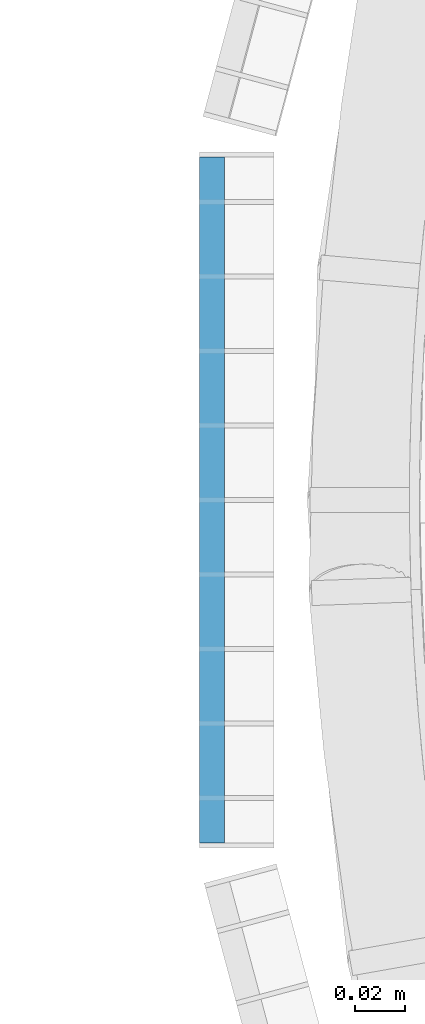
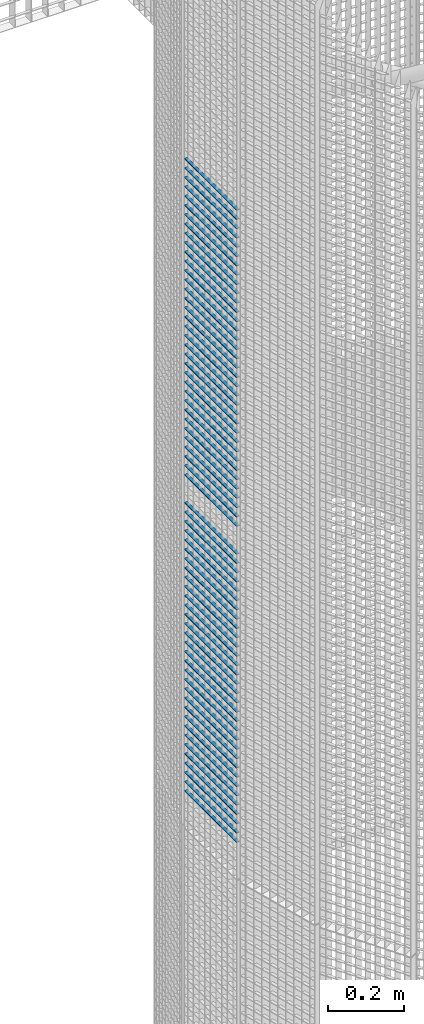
# One storey, part 205 of 1148: 67 beams, 1 element without a shape of its own.
"""IFC2X3 building model written with IfcOpenShell, lengths in millimetres."""

from ifc_helpers import new_model, si_unit, frame, origin_with_axes, origin_2d_with_axis, place, context, subcontext, project, spatial, rectangle, extrude, material, type_object, element, aggregate, save


model = new_model("IFC2X3")

# Units and contexts
model_context = context("Model", 3, precision=1e-05, world=origin_with_axes())
body_context = subcontext(model_context, "Body", "Model", "MODEL_VIEW")
ifc_project = project(units=[si_unit("LENGTHUNIT", "METRE", prefix="MILLI"), si_unit("AREAUNIT", "SQUARE_METRE"), si_unit("VOLUMEUNIT", "CUBIC_METRE"), si_unit("MASSUNIT", "GRAM", prefix="KILO"), si_unit("TIMEUNIT", "SECOND"), si_unit("PLANEANGLEUNIT", "RADIAN"), si_unit("SOLIDANGLEUNIT", "STERADIAN"), si_unit("THERMODYNAMICTEMPERATUREUNIT", "DEGREE_CELSIUS"), si_unit("LUMINOUSINTENSITYUNIT", "LUMEN")], contexts=[model_context])

# Site, building, storey
site_placement = place(None, origin_with_axes())
site = spatial("IfcSite", under=ifc_project, at=site_placement, Name="Undefined", CompositionType="ELEMENT")
building_placement = place(site_placement, origin_with_axes())
building = spatial("IfcBuilding", under=site, at=building_placement, Name="Undefined", CompositionType="ELEMENT")
storey_placement = place(building_placement, origin_with_axes())
storey = spatial("IfcBuildingStorey", under=building, at=storey_placement, Name="Undefined", CompositionType="ELEMENT", Elevation=0.0)

# Assembly, beams
assembly_placement = place(storey_placement, origin_with_axes())
assembly = element("IfcElementAssembly", 1, at=assembly_placement, inside=storey, Name="BORDURE", AssemblyPlace="NOTDEFINED", PredefinedType="NOTDEFINED")
ifc_material = material(Name="STEEL/S235JR")
beam_type = type_object("IfcBeamType", Name="PL2*10", PredefinedType="NOTDEFINED")
beam_1_placement = place(assembly_placement, frame((-1113.47999999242, 137.996003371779, 5160.0), z_axis=(-1.0, 0.0, 0.0), x_axis=(0.0, -1.0, 0.0)))
beam_1 = element("IfcBeam", 2, at=beam_1_placement, type_object=beam_type, material=ifc_material, Name="ENTRETOISE", context=body_context, shape_type="SweptSolid", body=[
    extrude(rectangle(XDim=2.0, YDim=10.0, at=origin_2d_with_axis()), frame((275.999999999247, 9.09494701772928e-13, 1.53210777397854e-14), z_axis=(-1.0, 0.0, 0.0), x_axis=(0.0, -1.0, 0.0)), (0.0, 0.0, 1.0), 276.0),
])
beam_2_placement = place(assembly_placement, frame((-1113.47999999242, 137.996003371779, 5130.0), z_axis=(-1.0, 0.0, 0.0), x_axis=(0.0, -1.0, 0.0)))
beam_2 = element("IfcBeam", 3, at=beam_2_placement, type_object=beam_type, material=ifc_material, Name="ENTRETOISE", context=body_context, shape_type="SweptSolid", body=[
    extrude(rectangle(XDim=2.0, YDim=10.0, at=origin_2d_with_axis()), frame((275.999999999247, 9.09494701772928e-13, 1.53210777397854e-14), z_axis=(-1.0, 0.0, 0.0), x_axis=(0.0, -1.0, 0.0)), (0.0, 0.0, 1.0), 276.0),
])
beam_3_placement = place(assembly_placement, frame((-1113.47999999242, 137.996003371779, 5100.0), z_axis=(-1.0, 0.0, 0.0), x_axis=(0.0, -1.0, 0.0)))
beam_3 = element("IfcBeam", 4, at=beam_3_placement, type_object=beam_type, material=ifc_material, Name="ENTRETOISE", context=body_context, shape_type="SweptSolid", body=[
    extrude(rectangle(XDim=2.0, YDim=10.0, at=origin_2d_with_axis()), frame((275.999999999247, 9.09494701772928e-13, 1.53210777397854e-14), z_axis=(-1.0, 0.0, 0.0), x_axis=(0.0, -1.0, 0.0)), (0.0, 0.0, 1.0), 276.0),
])
beam_4_placement = place(assembly_placement, frame((-1113.47999999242, 137.996003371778, 5070.0), z_axis=(-1.0, 0.0, 0.0), x_axis=(0.0, -1.0, 0.0)))
beam_4 = element("IfcBeam", 5, at=beam_4_placement, type_object=beam_type, material=ifc_material, Name="ENTRETOISE", context=body_context, shape_type="SweptSolid", body=[
    extrude(rectangle(XDim=2.0, YDim=10.0, at=origin_2d_with_axis()), frame((275.999999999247, 9.09494701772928e-13, 1.53210777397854e-14), z_axis=(-1.0, 0.0, 0.0), x_axis=(0.0, -1.0, 0.0)), (0.0, 0.0, 1.0), 276.0),
])
beam_5_placement = place(assembly_placement, frame((-1113.47999999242, 137.996003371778, 5040.0), z_axis=(-1.0, 0.0, 0.0), x_axis=(0.0, -1.0, 0.0)))
beam_5 = element("IfcBeam", 6, at=beam_5_placement, type_object=beam_type, material=ifc_material, Name="ENTRETOISE", context=body_context, shape_type="SweptSolid", body=[
    extrude(rectangle(XDim=2.0, YDim=10.0, at=origin_2d_with_axis()), frame((275.999999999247, 9.09494701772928e-13, 1.53210777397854e-14), z_axis=(-1.0, 0.0, 0.0), x_axis=(0.0, -1.0, 0.0)), (0.0, 0.0, 1.0), 276.0),
])
beam_6_placement = place(assembly_placement, frame((-1113.47999999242, 137.996003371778, 5010.0), z_axis=(-1.0, 0.0, 0.0), x_axis=(0.0, -1.0, 0.0)))
beam_6 = element("IfcBeam", 7, at=beam_6_placement, type_object=beam_type, material=ifc_material, Name="ENTRETOISE", context=body_context, shape_type="SweptSolid", body=[
    extrude(rectangle(XDim=2.0, YDim=10.0, at=origin_2d_with_axis()), frame((275.999999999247, 9.09494701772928e-13, 1.53210777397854e-14), z_axis=(-1.0, 0.0, 0.0), x_axis=(0.0, -1.0, 0.0)), (0.0, 0.0, 1.0), 276.0),
])
beam_7_placement = place(assembly_placement, frame((-1113.47999999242, 137.996003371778, 4980.0), z_axis=(-1.0, 0.0, 0.0), x_axis=(0.0, -1.0, 0.0)))
beam_7 = element("IfcBeam", 8, at=beam_7_placement, type_object=beam_type, material=ifc_material, Name="ENTRETOISE", context=body_context, shape_type="SweptSolid", body=[
    extrude(rectangle(XDim=2.0, YDim=10.0, at=origin_2d_with_axis()), frame((275.999999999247, 9.09494701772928e-13, 1.53210777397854e-14), z_axis=(-1.0, 0.0, 0.0), x_axis=(0.0, -1.0, 0.0)), (0.0, 0.0, 1.0), 276.0),
])
beam_8_placement = place(assembly_placement, frame((-1113.47999999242, 137.996003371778, 4950.0), z_axis=(-1.0, 0.0, 0.0), x_axis=(0.0, -1.0, 0.0)))
beam_8 = element("IfcBeam", 9, at=beam_8_placement, type_object=beam_type, material=ifc_material, Name="ENTRETOISE", context=body_context, shape_type="SweptSolid", body=[
    extrude(rectangle(XDim=2.0, YDim=10.0, at=origin_2d_with_axis()), frame((275.999999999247, 9.09494701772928e-13, 1.53210777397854e-14), z_axis=(-1.0, 0.0, 0.0), x_axis=(0.0, -1.0, 0.0)), (0.0, 0.0, 1.0), 276.0),
])
beam_9_placement = place(assembly_placement, frame((-1113.47999999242, 137.996003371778, 4920.0), z_axis=(-1.0, 0.0, 0.0), x_axis=(0.0, -1.0, 0.0)))
beam_9 = element("IfcBeam", 10, at=beam_9_placement, type_object=beam_type, material=ifc_material, Name="ENTRETOISE", context=body_context, shape_type="SweptSolid", body=[
    extrude(rectangle(XDim=2.0, YDim=10.0, at=origin_2d_with_axis()), frame((275.999999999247, 9.09494701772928e-13, 1.53210777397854e-14), z_axis=(-1.0, 0.0, 0.0), x_axis=(0.0, -1.0, 0.0)), (0.0, 0.0, 1.0), 276.0),
])
beam_10_placement = place(assembly_placement, frame((-1113.47999999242, 137.996003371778, 4890.0), z_axis=(-1.0, 0.0, 0.0), x_axis=(0.0, -1.0, 0.0)))
beam_10 = element("IfcBeam", 11, at=beam_10_placement, type_object=beam_type, material=ifc_material, Name="ENTRETOISE", context=body_context, shape_type="SweptSolid", body=[
    extrude(rectangle(XDim=2.0, YDim=10.0, at=origin_2d_with_axis()), frame((275.999999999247, 9.09494701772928e-13, 1.53210777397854e-14), z_axis=(-1.0, 0.0, 0.0), x_axis=(0.0, -1.0, 0.0)), (0.0, 0.0, 1.0), 276.0),
])
beam_11_placement = place(assembly_placement, frame((-1113.47999999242, 137.996003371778, 4860.0), z_axis=(-1.0, 0.0, 0.0), x_axis=(0.0, -1.0, 0.0)))
beam_11 = element("IfcBeam", 12, at=beam_11_placement, type_object=beam_type, material=ifc_material, Name="ENTRETOISE", context=body_context, shape_type="SweptSolid", body=[
    extrude(rectangle(XDim=2.0, YDim=10.0, at=origin_2d_with_axis()), frame((275.999999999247, 9.09494701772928e-13, 1.53210777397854e-14), z_axis=(-1.0, 0.0, 0.0), x_axis=(0.0, -1.0, 0.0)), (0.0, 0.0, 1.0), 276.0),
])
beam_12_placement = place(assembly_placement, frame((-1113.47999999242, 137.996003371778, 4830.0), z_axis=(-1.0, 0.0, 0.0), x_axis=(0.0, -1.0, 0.0)))
beam_12 = element("IfcBeam", 13, at=beam_12_placement, type_object=beam_type, material=ifc_material, Name="ENTRETOISE", context=body_context, shape_type="SweptSolid", body=[
    extrude(rectangle(XDim=2.0, YDim=10.0, at=origin_2d_with_axis()), frame((275.999999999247, 9.09494701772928e-13, 1.53210777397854e-14), z_axis=(-1.0, 0.0, 0.0), x_axis=(0.0, -1.0, 0.0)), (0.0, 0.0, 1.0), 276.0),
])
beam_13_placement = place(assembly_placement, frame((-1113.47999999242, 137.996003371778, 4800.0), z_axis=(-1.0, 0.0, 0.0), x_axis=(0.0, -1.0, 0.0)))
beam_13 = element("IfcBeam", 14, at=beam_13_placement, type_object=beam_type, material=ifc_material, Name="ENTRETOISE", context=body_context, shape_type="SweptSolid", body=[
    extrude(rectangle(XDim=2.0, YDim=10.0, at=origin_2d_with_axis()), frame((275.999999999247, 9.09494701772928e-13, 1.53210777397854e-14), z_axis=(-1.0, 0.0, 0.0), x_axis=(0.0, -1.0, 0.0)), (0.0, 0.0, 1.0), 276.0),
])
beam_14_placement = place(assembly_placement, frame((-1113.47999999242, 137.996003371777, 4770.0), z_axis=(-1.0, 0.0, 0.0), x_axis=(0.0, -1.0, 0.0)))
beam_14 = element("IfcBeam", 15, at=beam_14_placement, type_object=beam_type, material=ifc_material, Name="ENTRETOISE", context=body_context, shape_type="SweptSolid", body=[
    extrude(rectangle(XDim=2.0, YDim=10.0, at=origin_2d_with_axis()), frame((275.999999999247, 9.09494701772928e-13, 1.53210777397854e-14), z_axis=(-1.0, 0.0, 0.0), x_axis=(0.0, -1.0, 0.0)), (0.0, 0.0, 1.0), 276.0),
])
beam_15_placement = place(assembly_placement, frame((-1113.47999999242, 137.996003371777, 4740.0), z_axis=(-1.0, 0.0, 0.0), x_axis=(0.0, -1.0, 0.0)))
beam_15 = element("IfcBeam", 16, at=beam_15_placement, type_object=beam_type, material=ifc_material, Name="ENTRETOISE", context=body_context, shape_type="SweptSolid", body=[
    extrude(rectangle(XDim=2.0, YDim=10.0, at=origin_2d_with_axis()), frame((275.999999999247, 9.09494701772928e-13, 1.53210777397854e-14), z_axis=(-1.0, 0.0, 0.0), x_axis=(0.0, -1.0, 0.0)), (0.0, 0.0, 1.0), 276.0),
])
beam_16_placement = place(assembly_placement, frame((-1113.47999999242, 137.996003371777, 4710.0), z_axis=(-1.0, 0.0, 0.0), x_axis=(0.0, -1.0, 0.0)))
beam_16 = element("IfcBeam", 17, at=beam_16_placement, type_object=beam_type, material=ifc_material, Name="ENTRETOISE", context=body_context, shape_type="SweptSolid", body=[
    extrude(rectangle(XDim=2.0, YDim=10.0, at=origin_2d_with_axis()), frame((275.999999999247, 9.09494701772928e-13, 1.53210777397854e-14), z_axis=(-1.0, 0.0, 0.0), x_axis=(0.0, -1.0, 0.0)), (0.0, 0.0, 1.0), 276.0),
])
beam_17_placement = place(assembly_placement, frame((-1113.47999999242, 137.996003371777, 4680.0), z_axis=(-1.0, 0.0, 0.0), x_axis=(0.0, -1.0, 0.0)))
beam_17 = element("IfcBeam", 18, at=beam_17_placement, type_object=beam_type, material=ifc_material, Name="ENTRETOISE", context=body_context, shape_type="SweptSolid", body=[
    extrude(rectangle(XDim=2.0, YDim=10.0, at=origin_2d_with_axis()), frame((275.999999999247, 9.09494701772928e-13, 1.53210777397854e-14), z_axis=(-1.0, 0.0, 0.0), x_axis=(0.0, -1.0, 0.0)), (0.0, 0.0, 1.0), 276.0),
])
beam_18_placement = place(assembly_placement, frame((-1113.47999999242, 137.996003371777, 4650.0), z_axis=(-1.0, 0.0, 0.0), x_axis=(0.0, -1.0, 0.0)))
beam_18 = element("IfcBeam", 19, at=beam_18_placement, type_object=beam_type, material=ifc_material, Name="ENTRETOISE", context=body_context, shape_type="SweptSolid", body=[
    extrude(rectangle(XDim=2.0, YDim=10.0, at=origin_2d_with_axis()), frame((275.999999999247, 9.09494701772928e-13, 1.53210777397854e-14), z_axis=(-1.0, 0.0, 0.0), x_axis=(0.0, -1.0, 0.0)), (0.0, 0.0, 1.0), 276.0),
])
beam_19_placement = place(assembly_placement, frame((-1113.47999999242, 137.996003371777, 4620.0), z_axis=(-1.0, 0.0, 0.0), x_axis=(0.0, -1.0, 0.0)))
beam_19 = element("IfcBeam", 20, at=beam_19_placement, type_object=beam_type, material=ifc_material, Name="ENTRETOISE", context=body_context, shape_type="SweptSolid", body=[
    extrude(rectangle(XDim=2.0, YDim=10.0, at=origin_2d_with_axis()), frame((275.999999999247, 9.09494701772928e-13, 1.53210777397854e-14), z_axis=(-1.0, 0.0, 0.0), x_axis=(0.0, -1.0, 0.0)), (0.0, 0.0, 1.0), 276.0),
])
beam_20_placement = place(assembly_placement, frame((-1113.47999999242, 137.996003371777, 4590.0), z_axis=(-1.0, 0.0, 0.0), x_axis=(0.0, -1.0, 0.0)))
beam_20 = element("IfcBeam", 21, at=beam_20_placement, type_object=beam_type, material=ifc_material, Name="ENTRETOISE", context=body_context, shape_type="SweptSolid", body=[
    extrude(rectangle(XDim=2.0, YDim=10.0, at=origin_2d_with_axis()), frame((275.999999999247, 9.09494701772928e-13, 1.53210777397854e-14), z_axis=(-1.0, 0.0, 0.0), x_axis=(0.0, -1.0, 0.0)), (0.0, 0.0, 1.0), 276.0),
])
beam_21_placement = place(assembly_placement, frame((-1113.47999999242, 137.996003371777, 4560.0), z_axis=(-1.0, 0.0, 0.0), x_axis=(0.0, -1.0, 0.0)))
beam_21 = element("IfcBeam", 22, at=beam_21_placement, type_object=beam_type, material=ifc_material, Name="ENTRETOISE", context=body_context, shape_type="SweptSolid", body=[
    extrude(rectangle(XDim=2.0, YDim=10.0, at=origin_2d_with_axis()), frame((275.999999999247, 9.09494701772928e-13, 1.53210777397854e-14), z_axis=(-1.0, 0.0, 0.0), x_axis=(0.0, -1.0, 0.0)), (0.0, 0.0, 1.0), 276.0),
])
beam_22_placement = place(assembly_placement, frame((-1113.47999999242, 137.996003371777, 4530.0), z_axis=(-1.0, 0.0, 0.0), x_axis=(0.0, -1.0, 0.0)))
beam_22 = element("IfcBeam", 23, at=beam_22_placement, type_object=beam_type, material=ifc_material, Name="ENTRETOISE", context=body_context, shape_type="SweptSolid", body=[
    extrude(rectangle(XDim=2.0, YDim=10.0, at=origin_2d_with_axis()), frame((275.999999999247, 9.09494701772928e-13, 1.53210777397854e-14), z_axis=(-1.0, 0.0, 0.0), x_axis=(0.0, -1.0, 0.0)), (0.0, 0.0, 1.0), 276.0),
])
beam_23_placement = place(assembly_placement, frame((-1113.47999999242, 137.996003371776, 4500.0), z_axis=(-1.0, 0.0, 0.0), x_axis=(0.0, -1.0, 0.0)))
beam_23 = element("IfcBeam", 24, at=beam_23_placement, type_object=beam_type, material=ifc_material, Name="ENTRETOISE", context=body_context, shape_type="SweptSolid", body=[
    extrude(rectangle(XDim=2.0, YDim=10.0, at=origin_2d_with_axis()), frame((275.999999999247, 9.09494701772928e-13, 1.53210777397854e-14), z_axis=(-1.0, 0.0, 0.0), x_axis=(0.0, -1.0, 0.0)), (0.0, 0.0, 1.0), 276.0),
])
beam_24_placement = place(assembly_placement, frame((-1113.47999999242, 137.996003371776, 4470.0), z_axis=(-1.0, 0.0, 0.0), x_axis=(0.0, -1.0, 0.0)))
beam_24 = element("IfcBeam", 25, at=beam_24_placement, type_object=beam_type, material=ifc_material, Name="ENTRETOISE", context=body_context, shape_type="SweptSolid", body=[
    extrude(rectangle(XDim=2.0, YDim=10.0, at=origin_2d_with_axis()), frame((275.999999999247, 9.09494701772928e-13, 1.53210777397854e-14), z_axis=(-1.0, 0.0, 0.0), x_axis=(0.0, -1.0, 0.0)), (0.0, 0.0, 1.0), 276.0),
])
beam_25_placement = place(assembly_placement, frame((-1113.47999999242, 137.996003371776, 4440.0), z_axis=(-1.0, 0.0, 0.0), x_axis=(0.0, -1.0, 0.0)))
beam_25 = element("IfcBeam", 26, at=beam_25_placement, type_object=beam_type, material=ifc_material, Name="ENTRETOISE", context=body_context, shape_type="SweptSolid", body=[
    extrude(rectangle(XDim=2.0, YDim=10.0, at=origin_2d_with_axis()), frame((275.999999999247, 9.09494701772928e-13, 1.53210777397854e-14), z_axis=(-1.0, 0.0, 0.0), x_axis=(0.0, -1.0, 0.0)), (0.0, 0.0, 1.0), 276.0),
])
beam_26_placement = place(assembly_placement, frame((-1113.47999999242, 137.996003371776, 4410.0), z_axis=(-1.0, 0.0, 0.0), x_axis=(0.0, -1.0, 0.0)))
beam_26 = element("IfcBeam", 27, at=beam_26_placement, type_object=beam_type, material=ifc_material, Name="ENTRETOISE", context=body_context, shape_type="SweptSolid", body=[
    extrude(rectangle(XDim=2.0, YDim=10.0, at=origin_2d_with_axis()), frame((275.999999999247, 9.09494701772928e-13, 1.53210777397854e-14), z_axis=(-1.0, 0.0, 0.0), x_axis=(0.0, -1.0, 0.0)), (0.0, 0.0, 1.0), 276.0),
])
beam_27_placement = place(assembly_placement, frame((-1113.47999999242, 137.996003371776, 4380.0), z_axis=(-1.0, 0.0, 0.0), x_axis=(0.0, -1.0, 0.0)))
beam_27 = element("IfcBeam", 28, at=beam_27_placement, type_object=beam_type, material=ifc_material, Name="ENTRETOISE", context=body_context, shape_type="SweptSolid", body=[
    extrude(rectangle(XDim=2.0, YDim=10.0, at=origin_2d_with_axis()), frame((275.999999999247, 9.09494701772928e-13, 1.53210777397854e-14), z_axis=(-1.0, 0.0, 0.0), x_axis=(0.0, -1.0, 0.0)), (0.0, 0.0, 1.0), 276.0),
])
beam_28_placement = place(assembly_placement, frame((-1113.47999999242, 137.996003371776, 4350.0), z_axis=(-1.0, 0.0, 0.0), x_axis=(0.0, -1.0, 0.0)))
beam_28 = element("IfcBeam", 29, at=beam_28_placement, type_object=beam_type, material=ifc_material, Name="ENTRETOISE", context=body_context, shape_type="SweptSolid", body=[
    extrude(rectangle(XDim=2.0, YDim=10.0, at=origin_2d_with_axis()), frame((275.999999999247, 9.09494701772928e-13, 1.53210777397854e-14), z_axis=(-1.0, 0.0, 0.0), x_axis=(0.0, -1.0, 0.0)), (0.0, 0.0, 1.0), 276.0),
])
beam_29_placement = place(assembly_placement, frame((-1113.47999999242, 137.996003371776, 4320.0), z_axis=(-1.0, 0.0, 0.0), x_axis=(0.0, -1.0, 0.0)))
beam_29 = element("IfcBeam", 30, at=beam_29_placement, type_object=beam_type, material=ifc_material, Name="ENTRETOISE", context=body_context, shape_type="SweptSolid", body=[
    extrude(rectangle(XDim=2.0, YDim=10.0, at=origin_2d_with_axis()), frame((275.999999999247, 9.09494701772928e-13, 1.53210777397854e-14), z_axis=(-1.0, 0.0, 0.0), x_axis=(0.0, -1.0, 0.0)), (0.0, 0.0, 1.0), 276.0),
])
beam_30_placement = place(assembly_placement, frame((-1113.47999999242, 137.996003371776, 4290.0), z_axis=(-1.0, 0.0, 0.0), x_axis=(0.0, -1.0, 0.0)))
beam_30 = element("IfcBeam", 31, at=beam_30_placement, type_object=beam_type, material=ifc_material, Name="ENTRETOISE", context=body_context, shape_type="SweptSolid", body=[
    extrude(rectangle(XDim=2.0, YDim=10.0, at=origin_2d_with_axis()), frame((275.999999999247, 9.09494701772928e-13, 1.53210777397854e-14), z_axis=(-1.0, 0.0, 0.0), x_axis=(0.0, -1.0, 0.0)), (0.0, 0.0, 1.0), 276.0),
])
beam_31_placement = place(assembly_placement, frame((-1113.47999999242, 137.996003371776, 4260.0), z_axis=(-1.0, 0.0, 0.0), x_axis=(0.0, -1.0, 0.0)))
beam_31 = element("IfcBeam", 32, at=beam_31_placement, type_object=beam_type, material=ifc_material, Name="ENTRETOISE", context=body_context, shape_type="SweptSolid", body=[
    extrude(rectangle(XDim=2.0, YDim=10.0, at=origin_2d_with_axis()), frame((275.999999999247, 9.09494701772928e-13, 1.53210777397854e-14), z_axis=(-1.0, 0.0, 0.0), x_axis=(0.0, -1.0, 0.0)), (0.0, 0.0, 1.0), 276.0),
])
beam_32_placement = place(assembly_placement, frame((-1113.47999999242, 137.996003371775, 4230.0), z_axis=(-1.0, 0.0, 0.0), x_axis=(0.0, -1.0, 0.0)))
beam_32 = element("IfcBeam", 33, at=beam_32_placement, type_object=beam_type, material=ifc_material, Name="ENTRETOISE", context=body_context, shape_type="SweptSolid", body=[
    extrude(rectangle(XDim=2.0, YDim=10.0, at=origin_2d_with_axis()), frame((275.999999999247, 9.09494701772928e-13, 1.53210777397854e-14), z_axis=(-1.0, 0.0, 0.0), x_axis=(0.0, -1.0, 0.0)), (0.0, 0.0, 1.0), 276.0),
])
beam_33_placement = place(assembly_placement, frame((-1113.47999999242, 137.996003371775, 4200.0), z_axis=(-1.0, 0.0, 0.0), x_axis=(0.0, -1.0, 0.0)))
beam_33 = element("IfcBeam", 34, at=beam_33_placement, type_object=beam_type, material=ifc_material, Name="ENTRETOISE", context=body_context, shape_type="SweptSolid", body=[
    extrude(rectangle(XDim=2.0, YDim=10.0, at=origin_2d_with_axis()), frame((275.999999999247, 9.09494701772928e-13, 1.53210777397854e-14), z_axis=(-1.0, 0.0, 0.0), x_axis=(0.0, -1.0, 0.0)), (0.0, 0.0, 1.0), 276.0),
])
beam_34_placement = place(assembly_placement, frame((-1113.47999999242, 137.996003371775, 4170.0), z_axis=(-1.0, 0.0, 0.0), x_axis=(0.0, -1.0, 0.0)))
beam_34 = element("IfcBeam", 35, at=beam_34_placement, type_object=beam_type, material=ifc_material, Name="ENTRETOISE", context=body_context, shape_type="SweptSolid", body=[
    extrude(rectangle(XDim=2.0, YDim=10.0, at=origin_2d_with_axis()), frame((275.999999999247, 9.09494701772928e-13, 1.53210777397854e-14), z_axis=(-1.0, 0.0, 0.0), x_axis=(0.0, -1.0, 0.0)), (0.0, 0.0, 1.0), 276.0),
])
beam_35_placement = place(assembly_placement, frame((-1113.47999999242, 137.996003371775, 4140.0), z_axis=(-1.0, 0.0, 0.0), x_axis=(0.0, -1.0, 0.0)))
beam_35 = element("IfcBeam", 36, at=beam_35_placement, type_object=beam_type, material=ifc_material, Name="ENTRETOISE", context=body_context, shape_type="SweptSolid", body=[
    extrude(rectangle(XDim=2.0, YDim=10.0, at=origin_2d_with_axis()), frame((275.999999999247, 9.09494701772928e-13, 1.53210777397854e-14), z_axis=(-1.0, 0.0, 0.0), x_axis=(0.0, -1.0, 0.0)), (0.0, 0.0, 1.0), 276.0),
])
beam_36_placement = place(assembly_placement, frame((-1113.47999999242, 137.996003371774, 3720.0), z_axis=(-1.0, 0.0, 0.0), x_axis=(0.0, -1.0, 0.0)))
beam_36 = element("IfcBeam", 37, at=beam_36_placement, type_object=beam_type, material=ifc_material, Name="ENTRETOISE", context=body_context, shape_type="SweptSolid", body=[
    extrude(rectangle(XDim=2.0, YDim=10.0, at=origin_2d_with_axis()), frame((275.999999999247, 9.09494701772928e-13, 1.53210777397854e-14), z_axis=(-1.0, 0.0, 0.0), x_axis=(0.0, -1.0, 0.0)), (0.0, 0.0, 1.0), 276.0),
])
beam_37_placement = place(assembly_placement, frame((-1113.47999999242, 137.996003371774, 3690.0), z_axis=(-1.0, 0.0, 0.0), x_axis=(0.0, -1.0, 0.0)))
beam_37 = element("IfcBeam", 38, at=beam_37_placement, type_object=beam_type, material=ifc_material, Name="ENTRETOISE", context=body_context, shape_type="SweptSolid", body=[
    extrude(rectangle(XDim=2.0, YDim=10.0, at=origin_2d_with_axis()), frame((275.999999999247, 9.09494701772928e-13, 1.53210777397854e-14), z_axis=(-1.0, 0.0, 0.0), x_axis=(0.0, -1.0, 0.0)), (0.0, 0.0, 1.0), 276.0),
])
beam_38_placement = place(assembly_placement, frame((-1113.47999999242, 137.996003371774, 3750.0), z_axis=(-1.0, 0.0, 0.0), x_axis=(0.0, -1.0, 0.0)))
beam_38 = element("IfcBeam", 39, at=beam_38_placement, type_object=beam_type, material=ifc_material, Name="ENTRETOISE", context=body_context, shape_type="SweptSolid", body=[
    extrude(rectangle(XDim=2.0, YDim=10.0, at=origin_2d_with_axis()), frame((275.999999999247, 9.09494701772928e-13, 1.53210777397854e-14), z_axis=(-1.0, 0.0, 0.0), x_axis=(0.0, -1.0, 0.0)), (0.0, 0.0, 1.0), 276.0),
])
beam_39_placement = place(assembly_placement, frame((-1113.47999999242, 137.996003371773, 3660.0), z_axis=(-1.0, 0.0, 0.0), x_axis=(0.0, -1.0, 0.0)))
beam_39 = element("IfcBeam", 40, at=beam_39_placement, type_object=beam_type, material=ifc_material, Name="ENTRETOISE", context=body_context, shape_type="SweptSolid", body=[
    extrude(rectangle(XDim=2.0, YDim=10.0, at=origin_2d_with_axis()), frame((275.999999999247, 9.09494701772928e-13, 1.53210777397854e-14), z_axis=(-1.0, 0.0, 0.0), x_axis=(0.0, -1.0, 0.0)), (0.0, 0.0, 1.0), 276.0),
])
beam_40_placement = place(assembly_placement, frame((-1113.47999999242, 137.996003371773, 3630.0), z_axis=(-1.0, 0.0, 0.0), x_axis=(0.0, -1.0, 0.0)))
beam_40 = element("IfcBeam", 41, at=beam_40_placement, type_object=beam_type, material=ifc_material, Name="ENTRETOISE", context=body_context, shape_type="SweptSolid", body=[
    extrude(rectangle(XDim=2.0, YDim=10.0, at=origin_2d_with_axis()), frame((275.999999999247, 9.09494701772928e-13, 1.53210777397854e-14), z_axis=(-1.0, 0.0, 0.0), x_axis=(0.0, -1.0, 0.0)), (0.0, 0.0, 1.0), 276.0),
])
beam_41_placement = place(assembly_placement, frame((-1113.47999999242, 137.996003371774, 3780.0), z_axis=(-1.0, 0.0, 0.0), x_axis=(0.0, -1.0, 0.0)))
beam_41 = element("IfcBeam", 42, at=beam_41_placement, type_object=beam_type, material=ifc_material, Name="ENTRETOISE", context=body_context, shape_type="SweptSolid", body=[
    extrude(rectangle(XDim=2.0, YDim=10.0, at=origin_2d_with_axis()), frame((275.999999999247, 9.09494701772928e-13, 1.53210777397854e-14), z_axis=(-1.0, 0.0, 0.0), x_axis=(0.0, -1.0, 0.0)), (0.0, 0.0, 1.0), 276.0),
])
beam_42_placement = place(assembly_placement, frame((-1113.47999999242, 137.996003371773, 3600.0), z_axis=(-1.0, 0.0, 0.0), x_axis=(0.0, -1.0, 0.0)))
beam_42 = element("IfcBeam", 43, at=beam_42_placement, type_object=beam_type, material=ifc_material, Name="ENTRETOISE", context=body_context, shape_type="SweptSolid", body=[
    extrude(rectangle(XDim=2.0, YDim=10.0, at=origin_2d_with_axis()), frame((275.999999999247, 9.09494701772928e-13, 1.53210777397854e-14), z_axis=(-1.0, 0.0, 0.0), x_axis=(0.0, -1.0, 0.0)), (0.0, 0.0, 1.0), 276.0),
])
beam_43_placement = place(assembly_placement, frame((-1113.47999999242, 137.996003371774, 3810.0), z_axis=(-1.0, 0.0, 0.0), x_axis=(0.0, -1.0, 0.0)))
beam_43 = element("IfcBeam", 44, at=beam_43_placement, type_object=beam_type, material=ifc_material, Name="ENTRETOISE", context=body_context, shape_type="SweptSolid", body=[
    extrude(rectangle(XDim=2.0, YDim=10.0, at=origin_2d_with_axis()), frame((275.999999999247, 9.09494701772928e-13, 1.53210777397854e-14), z_axis=(-1.0, 0.0, 0.0), x_axis=(0.0, -1.0, 0.0)), (0.0, 0.0, 1.0), 276.0),
])
beam_44_placement = place(assembly_placement, frame((-1113.47999999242, 137.996003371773, 3570.0), z_axis=(-1.0, 0.0, 0.0), x_axis=(0.0, -1.0, 0.0)))
beam_44 = element("IfcBeam", 45, at=beam_44_placement, type_object=beam_type, material=ifc_material, Name="ENTRETOISE", context=body_context, shape_type="SweptSolid", body=[
    extrude(rectangle(XDim=2.0, YDim=10.0, at=origin_2d_with_axis()), frame((275.999999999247, 9.09494701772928e-13, 1.53210777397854e-14), z_axis=(-1.0, 0.0, 0.0), x_axis=(0.0, -1.0, 0.0)), (0.0, 0.0, 1.0), 276.0),
])
beam_45_placement = place(assembly_placement, frame((-1113.47999999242, 137.996003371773, 3540.0), z_axis=(-1.0, 0.0, 0.0), x_axis=(0.0, -1.0, 0.0)))
beam_45 = element("IfcBeam", 46, at=beam_45_placement, type_object=beam_type, material=ifc_material, Name="ENTRETOISE", context=body_context, shape_type="SweptSolid", body=[
    extrude(rectangle(XDim=2.0, YDim=10.0, at=origin_2d_with_axis()), frame((275.999999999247, 9.09494701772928e-13, 1.53210777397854e-14), z_axis=(-1.0, 0.0, 0.0), x_axis=(0.0, -1.0, 0.0)), (0.0, 0.0, 1.0), 276.0),
])
beam_46_placement = place(assembly_placement, frame((-1113.47999999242, 137.996003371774, 3840.0), z_axis=(-1.0, 0.0, 0.0), x_axis=(0.0, -1.0, 0.0)))
beam_46 = element("IfcBeam", 47, at=beam_46_placement, type_object=beam_type, material=ifc_material, Name="ENTRETOISE", context=body_context, shape_type="SweptSolid", body=[
    extrude(rectangle(XDim=2.0, YDim=10.0, at=origin_2d_with_axis()), frame((275.999999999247, 9.09494701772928e-13, 1.53210777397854e-14), z_axis=(-1.0, 0.0, 0.0), x_axis=(0.0, -1.0, 0.0)), (0.0, 0.0, 1.0), 276.0),
])
beam_47_placement = place(assembly_placement, frame((-1113.47999999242, 137.996003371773, 3510.0), z_axis=(-1.0, 0.0, 0.0), x_axis=(0.0, -1.0, 0.0)))
beam_47 = element("IfcBeam", 48, at=beam_47_placement, type_object=beam_type, material=ifc_material, Name="ENTRETOISE", context=body_context, shape_type="SweptSolid", body=[
    extrude(rectangle(XDim=2.0, YDim=10.0, at=origin_2d_with_axis()), frame((275.999999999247, 9.09494701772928e-13, 1.53210777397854e-14), z_axis=(-1.0, 0.0, 0.0), x_axis=(0.0, -1.0, 0.0)), (0.0, 0.0, 1.0), 276.0),
])
beam_48_placement = place(assembly_placement, frame((-1113.47999999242, 137.996003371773, 3480.0), z_axis=(-1.0, 0.0, 0.0), x_axis=(0.0, -1.0, 0.0)))
beam_48 = element("IfcBeam", 49, at=beam_48_placement, type_object=beam_type, material=ifc_material, Name="ENTRETOISE", context=body_context, shape_type="SweptSolid", body=[
    extrude(rectangle(XDim=2.0, YDim=10.0, at=origin_2d_with_axis()), frame((275.999999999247, 9.09494701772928e-13, 1.53210777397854e-14), z_axis=(-1.0, 0.0, 0.0), x_axis=(0.0, -1.0, 0.0)), (0.0, 0.0, 1.0), 276.0),
])
beam_49_placement = place(assembly_placement, frame((-1113.47999999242, 137.996003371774, 3870.0), z_axis=(-1.0, 0.0, 0.0), x_axis=(0.0, -1.0, 0.0)))
beam_49 = element("IfcBeam", 50, at=beam_49_placement, type_object=beam_type, material=ifc_material, Name="ENTRETOISE", context=body_context, shape_type="SweptSolid", body=[
    extrude(rectangle(XDim=2.0, YDim=10.0, at=origin_2d_with_axis()), frame((275.999999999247, 9.09494701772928e-13, 1.53210777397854e-14), z_axis=(-1.0, 0.0, 0.0), x_axis=(0.0, -1.0, 0.0)), (0.0, 0.0, 1.0), 276.0),
])
beam_50_placement = place(assembly_placement, frame((-1113.47999999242, 137.996003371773, 3450.0), z_axis=(-1.0, 0.0, 0.0), x_axis=(0.0, -1.0, 0.0)))
beam_50 = element("IfcBeam", 51, at=beam_50_placement, type_object=beam_type, material=ifc_material, Name="ENTRETOISE", context=body_context, shape_type="SweptSolid", body=[
    extrude(rectangle(XDim=2.0, YDim=10.0, at=origin_2d_with_axis()), frame((275.999999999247, 9.09494701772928e-13, 1.53210777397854e-14), z_axis=(-1.0, 0.0, 0.0), x_axis=(0.0, -1.0, 0.0)), (0.0, 0.0, 1.0), 276.0),
])
beam_51_placement = place(assembly_placement, frame((-1113.47999999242, 137.996003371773, 3420.0), z_axis=(-1.0, 0.0, 0.0), x_axis=(0.0, -1.0, 0.0)))
beam_51 = element("IfcBeam", 52, at=beam_51_placement, type_object=beam_type, material=ifc_material, Name="ENTRETOISE", context=body_context, shape_type="SweptSolid", body=[
    extrude(rectangle(XDim=2.0, YDim=10.0, at=origin_2d_with_axis()), frame((275.999999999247, 9.09494701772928e-13, 1.53210777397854e-14), z_axis=(-1.0, 0.0, 0.0), x_axis=(0.0, -1.0, 0.0)), (0.0, 0.0, 1.0), 276.0),
])
beam_52_placement = place(assembly_placement, frame((-1113.47999999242, 137.996003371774, 3900.0), z_axis=(-1.0, 0.0, 0.0), x_axis=(0.0, -1.0, 0.0)))
beam_52 = element("IfcBeam", 53, at=beam_52_placement, type_object=beam_type, material=ifc_material, Name="ENTRETOISE", context=body_context, shape_type="SweptSolid", body=[
    extrude(rectangle(XDim=2.0, YDim=10.0, at=origin_2d_with_axis()), frame((275.999999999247, 9.09494701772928e-13, 1.53210777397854e-14), z_axis=(-1.0, 0.0, 0.0), x_axis=(0.0, -1.0, 0.0)), (0.0, 0.0, 1.0), 276.0),
])
beam_53_placement = place(assembly_placement, frame((-1113.47999999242, 137.996003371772, 3390.0), z_axis=(-1.0, 0.0, 0.0), x_axis=(0.0, -1.0, 0.0)))
beam_53 = element("IfcBeam", 54, at=beam_53_placement, type_object=beam_type, material=ifc_material, Name="ENTRETOISE", context=body_context, shape_type="SweptSolid", body=[
    extrude(rectangle(XDim=2.0, YDim=10.0, at=origin_2d_with_axis()), frame((275.999999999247, 9.09494701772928e-13, 1.53210777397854e-14), z_axis=(-1.0, 0.0, 0.0), x_axis=(0.0, -1.0, 0.0)), (0.0, 0.0, 1.0), 276.0),
])
beam_54_placement = place(assembly_placement, frame((-1113.47999999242, 137.996003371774, 3930.0), z_axis=(-1.0, 0.0, 0.0), x_axis=(0.0, -1.0, 0.0)))
beam_54 = element("IfcBeam", 55, at=beam_54_placement, type_object=beam_type, material=ifc_material, Name="ENTRETOISE", context=body_context, shape_type="SweptSolid", body=[
    extrude(rectangle(XDim=2.0, YDim=10.0, at=origin_2d_with_axis()), frame((275.999999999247, 9.09494701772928e-13, 1.53210777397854e-14), z_axis=(-1.0, 0.0, 0.0), x_axis=(0.0, -1.0, 0.0)), (0.0, 0.0, 1.0), 276.0),
])
beam_55_placement = place(assembly_placement, frame((-1113.47999999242, 137.996003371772, 3360.0), z_axis=(-1.0, 0.0, 0.0), x_axis=(0.0, -1.0, 0.0)))
beam_55 = element("IfcBeam", 56, at=beam_55_placement, type_object=beam_type, material=ifc_material, Name="ENTRETOISE", context=body_context, shape_type="SweptSolid", body=[
    extrude(rectangle(XDim=2.0, YDim=10.0, at=origin_2d_with_axis()), frame((275.999999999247, 9.09494701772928e-13, 1.53210777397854e-14), z_axis=(-1.0, 0.0, 0.0), x_axis=(0.0, -1.0, 0.0)), (0.0, 0.0, 1.0), 276.0),
])
beam_56_placement = place(assembly_placement, frame((-1113.47999999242, 137.996003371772, 3330.0), z_axis=(-1.0, 0.0, 0.0), x_axis=(0.0, -1.0, 0.0)))
beam_56 = element("IfcBeam", 57, at=beam_56_placement, type_object=beam_type, material=ifc_material, Name="ENTRETOISE", context=body_context, shape_type="SweptSolid", body=[
    extrude(rectangle(XDim=2.0, YDim=10.0, at=origin_2d_with_axis()), frame((275.999999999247, 9.09494701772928e-13, 1.53210777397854e-14), z_axis=(-1.0, 0.0, 0.0), x_axis=(0.0, -1.0, 0.0)), (0.0, 0.0, 1.0), 276.0),
])
beam_57_placement = place(assembly_placement, frame((-1113.47999999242, 137.996003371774, 3960.0), z_axis=(-1.0, 0.0, 0.0), x_axis=(0.0, -1.0, 0.0)))
beam_57 = element("IfcBeam", 58, at=beam_57_placement, type_object=beam_type, material=ifc_material, Name="ENTRETOISE", context=body_context, shape_type="SweptSolid", body=[
    extrude(rectangle(XDim=2.0, YDim=10.0, at=origin_2d_with_axis()), frame((275.999999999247, 9.09494701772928e-13, 1.53210777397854e-14), z_axis=(-1.0, 0.0, 0.0), x_axis=(0.0, -1.0, 0.0)), (0.0, 0.0, 1.0), 276.0),
])
beam_58_placement = place(assembly_placement, frame((-1113.47999999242, 137.996003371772, 3300.0), z_axis=(-1.0, 0.0, 0.0), x_axis=(0.0, -1.0, 0.0)))
beam_58 = element("IfcBeam", 59, at=beam_58_placement, type_object=beam_type, material=ifc_material, Name="ENTRETOISE", context=body_context, shape_type="SweptSolid", body=[
    extrude(rectangle(XDim=2.0, YDim=10.0, at=origin_2d_with_axis()), frame((275.999999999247, 9.09494701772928e-13, 1.53210777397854e-14), z_axis=(-1.0, 0.0, 0.0), x_axis=(0.0, -1.0, 0.0)), (0.0, 0.0, 1.0), 276.0),
])
beam_59_placement = place(assembly_placement, frame((-1113.47999999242, 137.996003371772, 3270.0), z_axis=(-1.0, 0.0, 0.0), x_axis=(0.0, -1.0, 0.0)))
beam_59 = element("IfcBeam", 60, at=beam_59_placement, type_object=beam_type, material=ifc_material, Name="ENTRETOISE", context=body_context, shape_type="SweptSolid", body=[
    extrude(rectangle(XDim=2.0, YDim=10.0, at=origin_2d_with_axis()), frame((275.999999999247, 9.09494701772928e-13, 1.53210777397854e-14), z_axis=(-1.0, 0.0, 0.0), x_axis=(0.0, -1.0, 0.0)), (0.0, 0.0, 1.0), 276.0),
])
beam_60_placement = place(assembly_placement, frame((-1113.47999999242, 137.996003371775, 3990.0), z_axis=(-1.0, 0.0, 0.0), x_axis=(0.0, -1.0, 0.0)))
beam_60 = element("IfcBeam", 61, at=beam_60_placement, type_object=beam_type, material=ifc_material, Name="ENTRETOISE", context=body_context, shape_type="SweptSolid", body=[
    extrude(rectangle(XDim=2.0, YDim=10.0, at=origin_2d_with_axis()), frame((275.999999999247, 9.09494701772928e-13, 1.53210777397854e-14), z_axis=(-1.0, 0.0, 0.0), x_axis=(0.0, -1.0, 0.0)), (0.0, 0.0, 1.0), 276.0),
])
beam_61_placement = place(assembly_placement, frame((-1113.47999999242, 137.996003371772, 3240.0), z_axis=(-1.0, 0.0, 0.0), x_axis=(0.0, -1.0, 0.0)))
beam_61 = element("IfcBeam", 62, at=beam_61_placement, type_object=beam_type, material=ifc_material, Name="ENTRETOISE", context=body_context, shape_type="SweptSolid", body=[
    extrude(rectangle(XDim=2.0, YDim=10.0, at=origin_2d_with_axis()), frame((275.999999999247, 9.09494701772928e-13, 1.53210777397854e-14), z_axis=(-1.0, 0.0, 0.0), x_axis=(0.0, -1.0, 0.0)), (0.0, 0.0, 1.0), 276.0),
])
beam_62_placement = place(assembly_placement, frame((-1113.47999999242, 137.996003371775, 4020.0), z_axis=(-1.0, 0.0, 0.0), x_axis=(0.0, -1.0, 0.0)))
beam_62 = element("IfcBeam", 63, at=beam_62_placement, type_object=beam_type, material=ifc_material, Name="ENTRETOISE", context=body_context, shape_type="SweptSolid", body=[
    extrude(rectangle(XDim=2.0, YDim=10.0, at=origin_2d_with_axis()), frame((275.999999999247, 9.09494701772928e-13, 1.53210777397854e-14), z_axis=(-1.0, 0.0, 0.0), x_axis=(0.0, -1.0, 0.0)), (0.0, 0.0, 1.0), 276.0),
])
beam_63_placement = place(assembly_placement, frame((-1113.47999999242, 137.996003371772, 3210.0), z_axis=(-1.0, 0.0, 0.0), x_axis=(0.0, -1.0, 0.0)))
beam_63 = element("IfcBeam", 64, at=beam_63_placement, type_object=beam_type, material=ifc_material, Name="ENTRETOISE", context=body_context, shape_type="SweptSolid", body=[
    extrude(rectangle(XDim=2.0, YDim=10.0, at=origin_2d_with_axis()), frame((275.999999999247, 9.09494701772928e-13, 1.53210777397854e-14), z_axis=(-1.0, 0.0, 0.0), x_axis=(0.0, -1.0, 0.0)), (0.0, 0.0, 1.0), 276.0),
])
beam_64_placement = place(assembly_placement, frame((-1113.47999999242, 137.996003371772, 3180.0), z_axis=(-1.0, 0.0, 0.0), x_axis=(0.0, -1.0, 0.0)))
beam_64 = element("IfcBeam", 65, at=beam_64_placement, type_object=beam_type, material=ifc_material, Name="ENTRETOISE", context=body_context, shape_type="SweptSolid", body=[
    extrude(rectangle(XDim=2.0, YDim=10.0, at=origin_2d_with_axis()), frame((275.999999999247, 9.09494701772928e-13, 1.53210777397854e-14), z_axis=(-1.0, 0.0, 0.0), x_axis=(0.0, -1.0, 0.0)), (0.0, 0.0, 1.0), 276.0),
])
beam_65_placement = place(assembly_placement, frame((-1113.47999999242, 137.996003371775, 4050.0), z_axis=(-1.0, 0.0, 0.0), x_axis=(0.0, -1.0, 0.0)))
beam_65 = element("IfcBeam", 66, at=beam_65_placement, type_object=beam_type, material=ifc_material, Name="ENTRETOISE", context=body_context, shape_type="SweptSolid", body=[
    extrude(rectangle(XDim=2.0, YDim=10.0, at=origin_2d_with_axis()), frame((275.999999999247, 9.09494701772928e-13, 1.53210777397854e-14), z_axis=(-1.0, 0.0, 0.0), x_axis=(0.0, -1.0, 0.0)), (0.0, 0.0, 1.0), 276.0),
])
beam_66_placement = place(assembly_placement, frame((-1113.47999999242, 137.996003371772, 3150.0), z_axis=(-1.0, 0.0, 0.0), x_axis=(0.0, -1.0, 0.0)))
beam_66 = element("IfcBeam", 67, at=beam_66_placement, type_object=beam_type, material=ifc_material, Name="ENTRETOISE", context=body_context, shape_type="SweptSolid", body=[
    extrude(rectangle(XDim=2.0, YDim=10.0, at=origin_2d_with_axis()), frame((275.999999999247, 9.09494701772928e-13, 1.53210777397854e-14), z_axis=(-1.0, 0.0, 0.0), x_axis=(0.0, -1.0, 0.0)), (0.0, 0.0, 1.0), 276.0),
])
beam_67_placement = place(assembly_placement, frame((-1113.47999999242, 137.996003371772, 3120.0), z_axis=(-1.0, 0.0, 0.0), x_axis=(0.0, -1.0, 0.0)))
beam_67 = element("IfcBeam", 68, at=beam_67_placement, type_object=beam_type, material=ifc_material, Name="ENTRETOISE", context=body_context, shape_type="SweptSolid", body=[
    extrude(rectangle(XDim=2.0, YDim=10.0, at=origin_2d_with_axis()), frame((275.999999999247, 9.09494701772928e-13, 1.53210777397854e-14), z_axis=(-1.0, 0.0, 0.0), x_axis=(0.0, -1.0, 0.0)), (0.0, 0.0, 1.0), 276.0),
])
aggregate(assembly, [beam_1, beam_2, beam_3, beam_4, beam_5, beam_6, beam_7, beam_8, beam_9, beam_10, beam_11, beam_12, beam_13, beam_14, beam_15, beam_16, beam_17, beam_18, beam_19, beam_20, beam_21, beam_22, beam_23, beam_24, beam_25, beam_26, beam_27, beam_28, beam_29, beam_30, beam_31, beam_32, beam_33, beam_34, beam_35, beam_36, beam_37, beam_38, beam_39, beam_40, beam_41, beam_42, beam_43, beam_44, beam_45, beam_46, beam_47, beam_48, beam_49, beam_50, beam_51, beam_52, beam_53, beam_54, beam_55, beam_56, beam_57, beam_58, beam_59, beam_60, beam_61, beam_62, beam_63, beam_64, beam_65, beam_66, beam_67])

save(model, "model.ifc")
